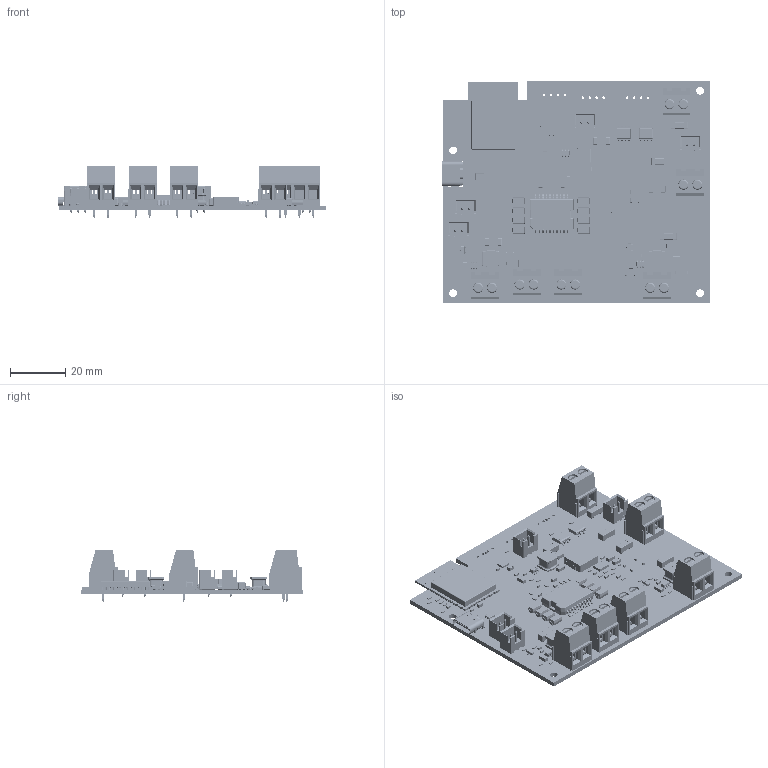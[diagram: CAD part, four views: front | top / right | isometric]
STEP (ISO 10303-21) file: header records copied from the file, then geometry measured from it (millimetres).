
FILE_DESCRIPTION(('Designed by EasyEDA Pro'),'2;1');
FILE_NAME('Open CASCADE Shape Model','2026-11-24T00:06:04',('Author'),( 'Open CASCADE'),'Open CASCADE STEP processor 7.8','Open CASCADE 7.8' ,'Unknown');
FILE_SCHEMA(('AUTOMOTIVE_DESIGN { 1 0 10303 214 1 1 1 1 }'));
Length unit declared in the file: millimetre
Products named in the file (144): EasyEDA PCB Model~bAd2; Board~bAd2; TopCopper~bAd2; BottomCopper~bAd2; TopSilkscreen~bAd2; BottomSilkscreen~bAd2; TopFpcStiffener~bAd2; BottomFpcStiffener~bAd2; C20~C1210~C1210_L3.2-W2.5-H2.5~bAd2; C1210~C1210_L3.2-W2.5-H2.5~bAd2; C21~C1210~C1210_L3.2-W2.5-H2.5~bAd2; C22~C1210~C1210_L3.2-W2.5-H2.5~bAd2; C23~C1210~C1210_L3.2-W2.5-H2.5~bAd2; C25~C1210~C1210_L3.2-W2.5-H2.5~bAd2; J2~CONN-TH_B4B-XH-A-G~CONN-TH_B4B-XH-A-G~bAd2; CONN-TH_B4B-XH-A-G~CONN-TH_B4B-XH-A-G~bAd2; J3~CONN-TH_B4B-XH-A-G~CONN-TH_B4B-XH-A-G~bAd2; J4~CONN-TH_B4B-XH-A-G~CONN-TH_B4B-XH-A-G~bAd2; R0603~R0603~aIq3; R1~R0603~R0603~RH80; R2~R0603~R0603~fQ66; R3~R0603~R0603~0bct; R4~R0603~R0603~UbQX; R5~R0603~R0603~xlzY; R6~R0603~R0603~7htw; R7~R0603~R0603~1Gqx; R8~R0603~R0603~awTl; R9~R0603~R0603~mozz; R10~R0603~R0603~D7wg; R11~R0603~R0603~sKsa; R12~R0603~R0603~QUAs; R13~R0603~R0603~qJbl; R14~R0603~R0603~zrRn; R15~R0603~R0603~ihz3; R16~R0603~R0603~cCK7; R17~R0603~R0603~9EMm; R18~R0603~R0603~Veus; R19~R0603~R0603~bx9G; R20~R0603~R0603~tOCy; R21~R0603~R0603~eUAX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
Assembly tree (235 placements, depth 3):
  EasyEDA PCB Model~bAd2
    Board~bAd2
    TopCopper~bAd2
    BottomCopper~bAd2
    TopSilkscreen~bAd2
    BottomSilkscreen~bAd2
    TopFpcStiffener~bAd2
    BottomFpcStiffener~bAd2
    C20~C1210~C1210_L3.2-W2.5-H2.5~bAd2
      C1210~C1210_L3.2-W2.5-H2.5~bAd2
    C21~C1210~C1210_L3.2-W2.5-H2.5~bAd2
      C1210~C1210_L3.2-W2.5-H2.5~bAd2
    C22~C1210~C1210_L3.2-W2.5-H2.5~bAd2
      C1210~C1210_L3.2-W2.5-H2.5~bAd2
    C23~C1210~C1210_L3.2-W2.5-H2.5~bAd2
      C1210~C1210_L3.2-W2.5-H2.5~bAd2
    C25~C1210~C1210_L3.2-W2.5-H2.5~bAd2
      C1210~C1210_L3.2-W2.5-H2.5~bAd2
    J2~CONN-TH_B4B-XH-A-G~CONN-TH_B4B-XH-A-G~bAd2
      CONN-TH_B4B-XH-A-G~CONN-TH_B4B-XH-A-G~bAd2
    J3~CONN-TH_B4B-XH-A-G~CONN-TH_B4B-XH-A-G~bAd2
      CONN-TH_B4B-XH-A-G~CONN-TH_B4B-XH-A-G~bAd2
    J4~CONN-TH_B4B-XH-A-G~CONN-TH_B4B-XH-A-G~bAd2
      CONN-TH_B4B-XH-A-G~CONN-TH_B4B-XH-A-G~bAd2
    R1~R0603~R0603~RH80
      R0603~R0603~aIq3
    R2~R0603~R0603~fQ66
      R0603~R0603~aIq3
    R3~R0603~R0603~0bct
      R0603~R0603~aIq3
    R4~R0603~R0603~UbQX
      R0603~R0603~aIq3
    R5~R0603~R0603~xlzY
      R0603~R0603~aIq3
    R6~R0603~R0603~7htw
      R0603~R0603~aIq3
    R7~R0603~R0603~1Gqx
      R0603~R0603~aIq3
    R8~R0603~R0603~awTl
      R0603~R0603~aIq3
    R9~R0603~R0603~mozz
      R0603~R0603~aIq3
    R10~R0603~R0603~D7wg
      R0603~R0603~aIq3
    R11~R0603~R0603~sKsa
      R0603~R0603~aIq3
    R12~R0603~R0603~QUAs
      R0603~R0603~aIq3
    R13~R0603~R0603~qJbl
      R0603~R0603~aIq3
    R14~R0603~R0603~zrRn
      R0603~R0603~aIq3
    R15~R0603~R0603~ihz3
      R0603~R0603~aIq3
    R16~R0603~R0603~cCK7
      R0603~R0603~aIq3
    R17~R0603~R0603~9EMm
      R0603~R0603~aIq3
    R18~R0603~R0603~Veus
      R0603~R0603~aIq3
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Bounding box: 96.41 x 79.97 x 18.4 mm (x, y, z)
Volume: 20799.5 mm3; surface area: 33747.6 mm2
Topology: 617 solids, 617 shells, 39084 faces, 103184 edges, 66896 vertices
Faces by surface type: plane 22554, bspline 11693, cylinder 3555, sphere 714, torus 544, cone 24
Entity records: 460284 total; most frequent: CARTESIAN_POINT 110266, ORIENTED_EDGE 52978, DIRECTION 40425, EDGE_CURVE 26489, LINE 18059, VECTOR 18059, VERTEX_POINT 16929, AXIS2_PLACEMENT_3D 11183
